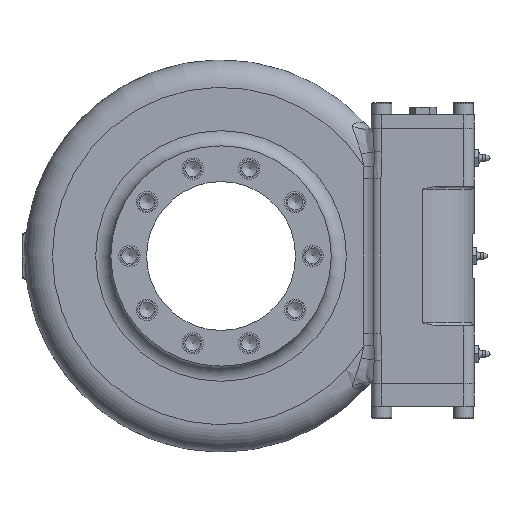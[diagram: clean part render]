
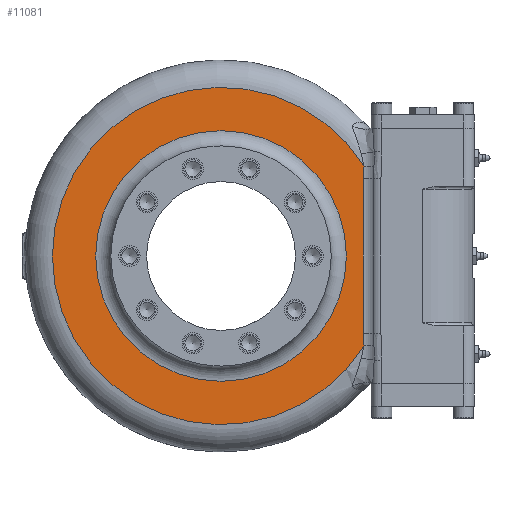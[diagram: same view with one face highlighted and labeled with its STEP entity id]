
A CAD part, left-side view. The second image highlights one B-rep face of the part: STEP entity #11081.
In plain terms, the highlighted planar face has unit normal (-1, 0, 0).
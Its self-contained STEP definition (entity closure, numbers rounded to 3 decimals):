
#428 = EDGE_CURVE ( 'NONE', #23388, #24265, #24834, .T. ) ;
#828 = FACE_BOUND ( 'NONE', #4531, .T. ) ;
#860 = ORIENTED_EDGE ( 'NONE', *, *, #428, .T. ) ;
#1963 = PLANE ( 'NONE',  #13937 ) ;
#2244 = CARTESIAN_POINT ( 'NONE',  ( -29.5, -93.825, 57.824 ) ) ;
#2587 = CARTESIAN_POINT ( 'NONE',  ( -29.5, -93.717, 50.787 ) ) ;
#3349 = CARTESIAN_POINT ( 'NONE',  ( -29.5, -93.876, 59.231 ) ) ;
#3452 = CARTESIAN_POINT ( 'NONE',  ( -29.5, 0., -82.5 ) ) ;
#3513 = EDGE_CURVE ( 'NONE', #16017, #24660, #18621, .T. ) ;
#4510 = CARTESIAN_POINT ( 'NONE',  ( -29.5, -93.717, -52.195 ) ) ;
#4531 = EDGE_LOOP ( 'NONE', ( #5579 ) ) ;
#4594 = CARTESIAN_POINT ( 'NONE',  ( -29.5, -93.717, 52.195 ) ) ;
#5579 = ORIENTED_EDGE ( 'NONE', *, *, #23767, .T. ) ;
#6019 = DIRECTION ( 'NONE',  ( 1., 0., 0. ) ) ;
#7361 = EDGE_CURVE ( 'NONE', #24265, #16017, #24654, .T. ) ;
#8267 = CARTESIAN_POINT ( 'NONE',  ( -29.5, 0., 0. ) ) ;
#9781 = CARTESIAN_POINT ( 'NONE',  ( -29.5, 0., 0. ) ) ;
#10359 = DIRECTION ( 'NONE',  ( 0., 0., -1. ) ) ;
#10567 = CARTESIAN_POINT ( 'NONE',  ( -29.5, -93.717, -50.787 ) ) ;
#11081 = ADVANCED_FACE ( 'NONE', ( #828, #18575 ), #1963, .F. ) ;
#11507 = CIRCLE ( 'NONE', #24234, 111. ) ;
#12146 = CARTESIAN_POINT ( 'NONE',  ( -29.5, -93.73, 53.602 ) ) ;
#12280 = DIRECTION ( 'NONE',  ( -1., 0., 0. ) ) ;
#12404 = CARTESIAN_POINT ( 'NONE',  ( -29.5, -93.784, -56.417 ) ) ;
#12688 = EDGE_CURVE ( 'NONE', #24660, #23388, #11507, .T. ) ;
#12948 = EDGE_LOOP ( 'NONE', ( #14698, #21347, #17469, #860 ) ) ;
#13937 = AXIS2_PLACEMENT_3D ( 'NONE', #9781, #6019, #15730 ) ;
#14173 = CARTESIAN_POINT ( 'NONE',  ( -29.5, -93.784, 56.417 ) ) ;
#14698 = ORIENTED_EDGE ( 'NONE', *, *, #7361, .T. ) ;
#15526 = DIRECTION ( 'NONE',  ( 1., 0., 0. ) ) ;
#15730 = DIRECTION ( 'NONE',  ( 0., 0., -1. ) ) ;
#16017 = VERTEX_POINT ( 'NONE', #16063 ) ;
#16063 = CARTESIAN_POINT ( 'NONE',  ( -29.5, -93.717, 50.787 ) ) ;
#16424 = CARTESIAN_POINT ( 'NONE',  ( -29.5, -93.876, -59.231 ) ) ;
#17469 = ORIENTED_EDGE ( 'NONE', *, *, #12688, .T. ) ;
#18328 = CIRCLE ( 'NONE', #21323, 82.5 ) ;
#18575 = FACE_OUTER_BOUND ( 'NONE', #12948, .T. ) ;
#18621 = B_SPLINE_CURVE_WITH_KNOTS ( 'NONE', 3,
 ( #2587, #4594, #12146, #14173, #2244, #20288 ),
 .UNSPECIFIED., .F., .F.,
 ( 4, 2, 4 ),
 ( 0., 0.004, 0.008 ),
 .UNSPECIFIED. ) ;
#18889 = CARTESIAN_POINT ( 'NONE',  ( -29.5, -93.717, 0. ) ) ;
#20194 = CARTESIAN_POINT ( 'NONE',  ( -29.5, -93.825, -57.824 ) ) ;
#20288 = CARTESIAN_POINT ( 'NONE',  ( -29.5, -93.876, 59.231 ) ) ;
#20592 = VECTOR ( 'NONE', #24662, 1000. ) ;
#21323 = AXIS2_PLACEMENT_3D ( 'NONE', #23638, #15526, #23360 ) ;
#21347 = ORIENTED_EDGE ( 'NONE', *, *, #3513, .T. ) ;
#22181 = CARTESIAN_POINT ( 'NONE',  ( -29.5, -93.876, -59.231 ) ) ;
#22204 = CARTESIAN_POINT ( 'NONE',  ( -29.5, -93.73, -53.602 ) ) ;
#23360 = DIRECTION ( 'NONE',  ( 0., 0., -1. ) ) ;
#23388 = VERTEX_POINT ( 'NONE', #22181 ) ;
#23638 = CARTESIAN_POINT ( 'NONE',  ( -29.5, 0., 0. ) ) ;
#23767 = EDGE_CURVE ( 'NONE', #24472, #24472, #18328, .T. ) ;
#24202 = CARTESIAN_POINT ( 'NONE',  ( -29.5, -93.717, -50.787 ) ) ;
#24234 = AXIS2_PLACEMENT_3D ( 'NONE', #8267, #12280, #10359 ) ;
#24265 = VERTEX_POINT ( 'NONE', #10567 ) ;
#24472 = VERTEX_POINT ( 'NONE', #3452 ) ;
#24654 = LINE ( 'NONE', #18889, #20592 ) ;
#24660 = VERTEX_POINT ( 'NONE', #3349 ) ;
#24662 = DIRECTION ( 'NONE',  ( 0., 0., 1. ) ) ;
#24834 = B_SPLINE_CURVE_WITH_KNOTS ( 'NONE', 3,
 ( #16424, #20194, #12404, #22204, #4510, #24202 ),
 .UNSPECIFIED., .F., .F.,
 ( 4, 2, 4 ),
 ( 0., 0.004, 0.008 ),
 .UNSPECIFIED. ) ;
